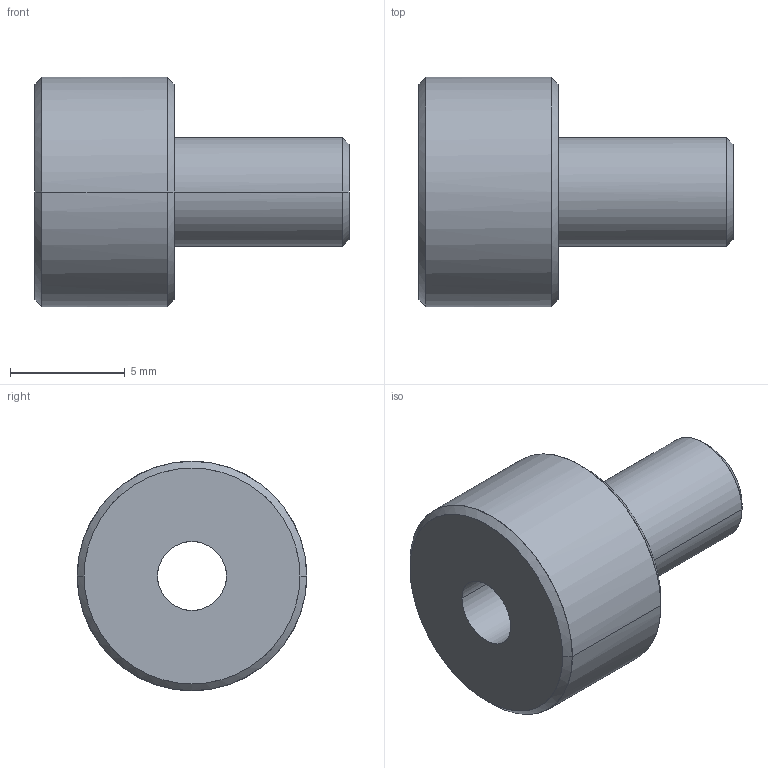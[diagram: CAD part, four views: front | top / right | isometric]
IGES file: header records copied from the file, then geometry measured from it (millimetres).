
Global section: file name: No Iges File Name specified; native system: AutoDesk Inventor R11.0; preprocessor: AutoDesk Inventor Iges Exporter R11.0; author: No Author specified; organization: No Organization specified; date: 20150221.140217; units: millimetre
Bounding box: 13.68 x 10 x 10 mm (x, y, z)
Surface area: 561.9 mm2 (no closed solid volume)
Topology: 0 solids, 0 shells, 15 faces, 96 edges, 96 vertices
Faces by surface type: bspline 15
